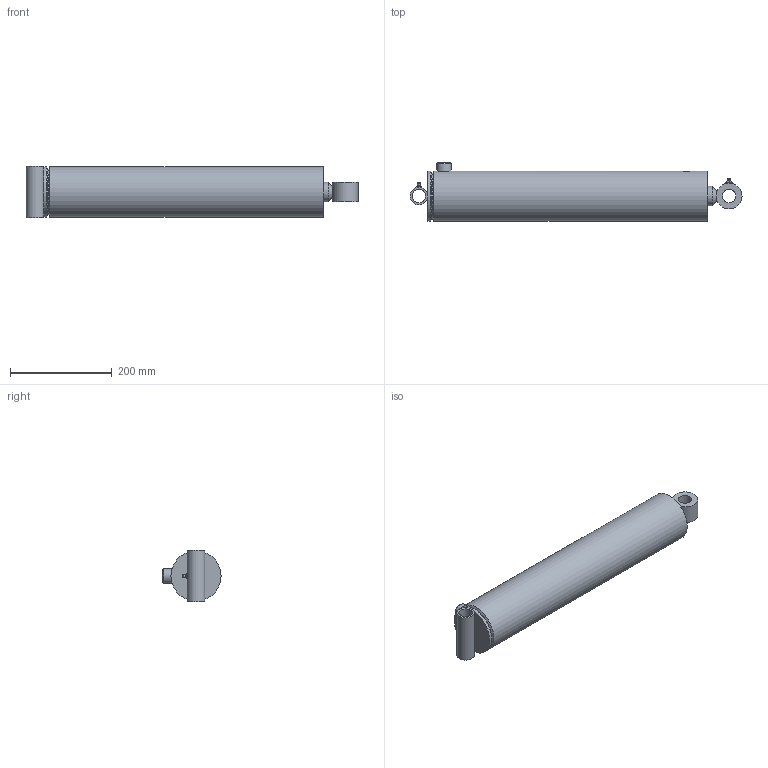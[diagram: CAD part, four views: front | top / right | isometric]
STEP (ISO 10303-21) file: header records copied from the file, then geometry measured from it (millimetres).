
FILE_DESCRIPTION(/* description */ (''),/* implementation_level */ '2;1');
FILE_NAME(/* name */ '\\SRVR-ENG\EngSales\Cylinders\PMC-5516.stp',/* time_stamp */ '2014-08-14T08:24:55-05:00',/* author */ ('KneiflD'),/* organization */ (''),/* preprocessor_version */ 'ST-DEVELOPER v15.2',/* originating_system */ 'Autodesk Inventor 2014',/* authorisation */ '');
FILE_SCHEMA (('AUTOMOTIVE_DESIGN { 1 0 10303 214 3 1 1 }'));
Length unit declared in the file: inch
Products named in the file (17): 051700041; 161700005V; 200014404V; 210400024V; 061700026; 010800790; 210400528V; 020800259; 071700016V; 081700326V; 220000210; 230001350V; 200018003V; 270010002V; 270010020V; 250001222V; PMC-5516
Bounding box: 652.45 x 114.3 x 101.6 mm (x, y, z)
Volume: 2010162 mm3; surface area: 529085.7 mm2
Topology: 15 solids, 15 shells, 215 faces, 440 edges, 268 vertices
Faces by surface type: plane 96, cylinder 54, cone 34, torus 25, bspline 4, sphere 2
Full cylindrical faces by diameter (mm): 1.524 x2, 3.175 x2, 5.486 x1, 6.074 x1, 8.839 x1, 9.08 x1, 12.7 x1, 17.462 x1, 17.475 x1, 23.444 x1, 23.812 x1, 25.349 x1, 25.476 x1, 25.908 x1, 26.162 x1, 27.965 x1, 28.575 x1, 34.925 x1, 38.1 x2, 38.176 x2, 41.91 x1, 46.025 x2, 47.625 x1, 50.8 x1, 53.975 x1, 69.342 x1, 79.451 x1, 80.061 x1, 80.264 x1, 84.125 x1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
Entity records: 5466 total; most frequent: CARTESIAN_POINT 1455, DIRECTION 850, ORIENTED_EDGE 568, AXIS2_PLACEMENT_3D 391, EDGE_LOOP 344, EDGE_CURVE 284, VERTEX_POINT 230, ADVANCED_FACE 198
